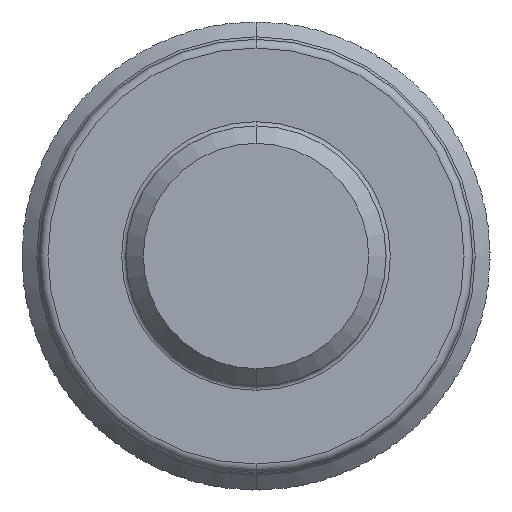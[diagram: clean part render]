
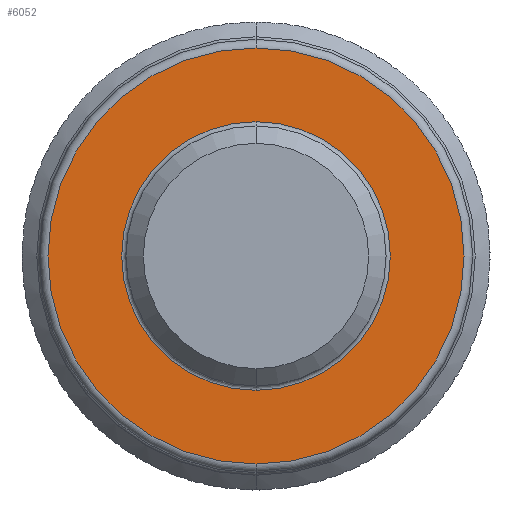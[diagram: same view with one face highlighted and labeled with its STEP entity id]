
A CAD part, front view. The second image highlights one B-rep face of the part: STEP entity #6052.
In plain terms, the highlighted planar face has unit normal (0, -1, 0).
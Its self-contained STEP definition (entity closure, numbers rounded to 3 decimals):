
#149 = AXIS2_PLACEMENT_3D ( 'NONE', #7623, #666, #6128 ) ;
#328 = ORIENTED_EDGE ( 'NONE', *, *, #6744, .T. ) ;
#344 = CARTESIAN_POINT ( 'NONE',  ( 0., -3., -2.4 ) ) ;
#466 = DIRECTION ( 'NONE',  ( 0., 0., -1. ) ) ;
#666 = DIRECTION ( 'NONE',  ( 0., 1., 0. ) ) ;
#716 = DIRECTION ( 'NONE',  ( 0., 0., -1. ) ) ;
#1616 = CIRCLE ( 'NONE', #149, 1.55 ) ;
#1971 = DIRECTION ( 'NONE',  ( 0., 0., -1. ) ) ;
#2105 = CARTESIAN_POINT ( 'NONE',  ( 1.5, -3., 0. ) ) ;
#2133 = EDGE_CURVE ( 'NONE', #9995, #3961, #6035, .T. ) ;
#2260 = CARTESIAN_POINT ( 'NONE',  ( 0., -3., 0. ) ) ;
#2439 = CIRCLE ( 'NONE', #3737, 1.55 ) ;
#2587 = EDGE_CURVE ( 'NONE', #4534, #8396, #1616, .T. ) ;
#2588 = EDGE_CURVE ( 'NONE', #8396, #4534, #2439, .T. ) ;
#2735 = CARTESIAN_POINT ( 'NONE',  ( 0., -3., 0. ) ) ;
#3547 = DIRECTION ( 'NONE',  ( 0., -1., 0. ) ) ;
#3737 = AXIS2_PLACEMENT_3D ( 'NONE', #2260, #7677, #716 ) ;
#3842 = CIRCLE ( 'NONE', #8031, 2.4 ) ;
#3961 = VERTEX_POINT ( 'NONE', #4461 ) ;
#4202 = EDGE_LOOP ( 'NONE', ( #6907, #328 ) ) ;
#4461 = CARTESIAN_POINT ( 'NONE',  ( 0., -3., 2.4 ) ) ;
#4497 = CARTESIAN_POINT ( 'NONE',  ( 0., -3., 1.55 ) ) ;
#4534 = VERTEX_POINT ( 'NONE', #4592 ) ;
#4592 = CARTESIAN_POINT ( 'NONE',  ( 0., -3., -1.55 ) ) ;
#5052 = EDGE_LOOP ( 'NONE', ( #8094, #8737 ) ) ;
#5206 = DIRECTION ( 'NONE',  ( 0., -1., 0. ) ) ;
#5268 = DIRECTION ( 'NONE',  ( 0., 0., -1. ) ) ;
#6035 = CIRCLE ( 'NONE', #6661, 2.4 ) ;
#6045 = CARTESIAN_POINT ( 'NONE',  ( 0., -3., 0. ) ) ;
#6052 = ADVANCED_FACE ( 'NONE', ( #8872, #9031 ), #8928, .T. ) ;
#6128 = DIRECTION ( 'NONE',  ( 0., 0., -1. ) ) ;
#6661 = AXIS2_PLACEMENT_3D ( 'NONE', #6045, #9093, #5268 ) ;
#6744 = EDGE_CURVE ( 'NONE', #3961, #9995, #3842, .T. ) ;
#6907 = ORIENTED_EDGE ( 'NONE', *, *, #2133, .T. ) ;
#7623 = CARTESIAN_POINT ( 'NONE',  ( 0., -3., 0. ) ) ;
#7677 = DIRECTION ( 'NONE',  ( 0., 1., 0. ) ) ;
#8031 = AXIS2_PLACEMENT_3D ( 'NONE', #2735, #3547, #1971 ) ;
#8094 = ORIENTED_EDGE ( 'NONE', *, *, #2587, .T. ) ;
#8396 = VERTEX_POINT ( 'NONE', #4497 ) ;
#8737 = ORIENTED_EDGE ( 'NONE', *, *, #2588, .T. ) ;
#8872 = FACE_BOUND ( 'NONE', #5052, .T. ) ;
#8928 = PLANE ( 'NONE',  #9467 ) ;
#9031 = FACE_OUTER_BOUND ( 'NONE', #4202, .T. ) ;
#9093 = DIRECTION ( 'NONE',  ( 0., -1., 0. ) ) ;
#9467 = AXIS2_PLACEMENT_3D ( 'NONE', #2105, #5206, #466 ) ;
#9995 = VERTEX_POINT ( 'NONE', #344 ) ;
